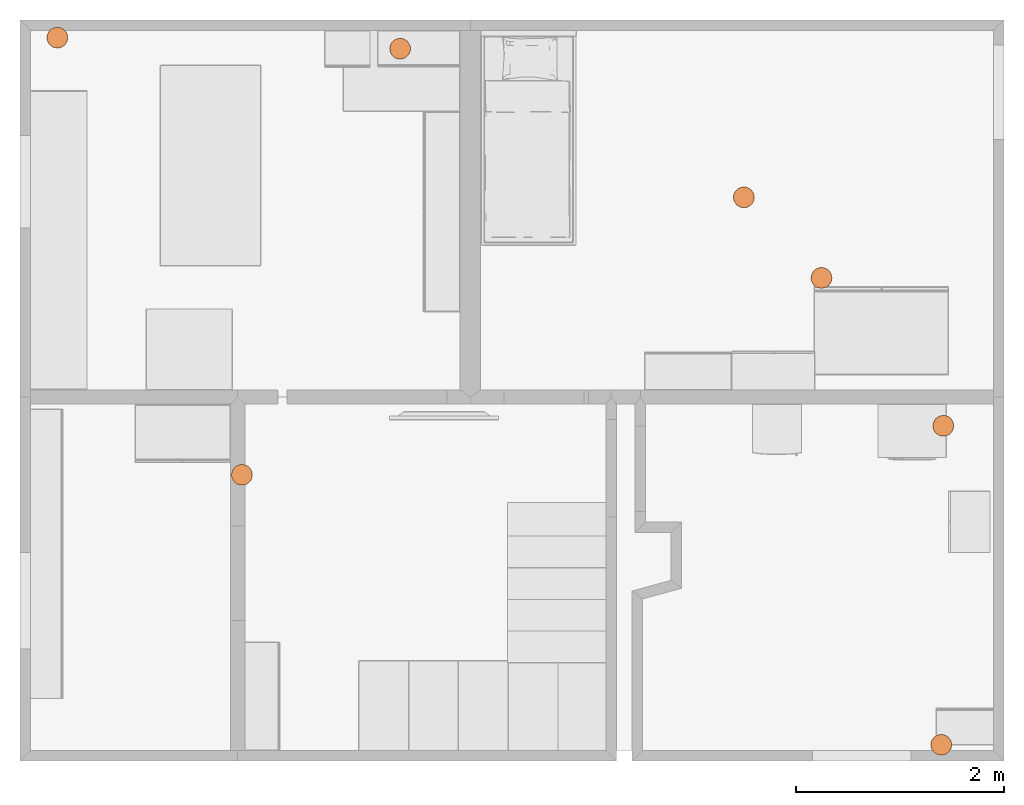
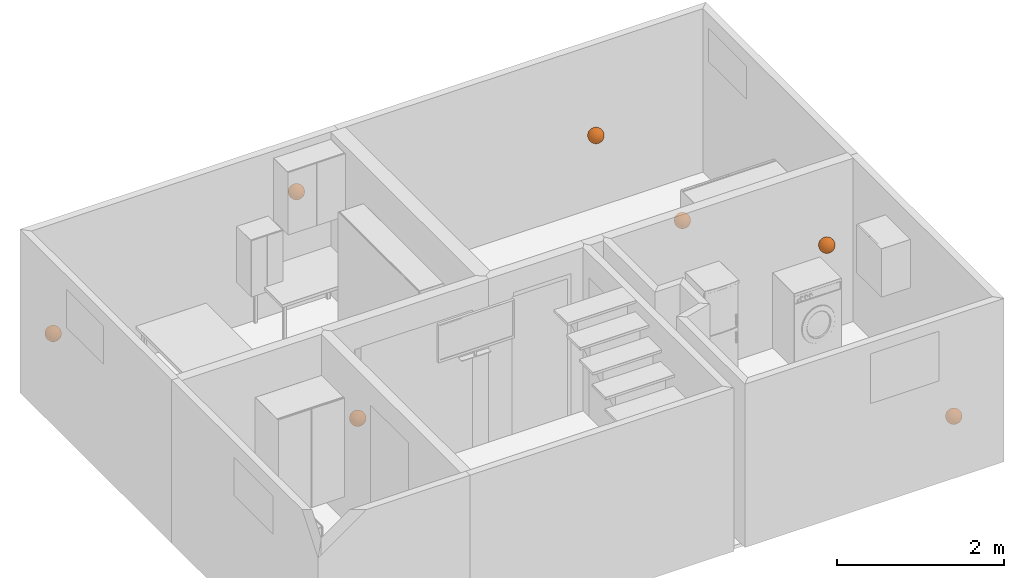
# One storey, part 9 of 9: 7 proxies.
"""IFC2X3 building model written with IfcOpenShell, lengths in metres."""

from ifc_helpers import new_model, entity, si_unit, frame, origin_with_axes, place, context, subcontext, project, spatial, element, save


model = new_model("IFC2X3")

# Units and contexts
model_context = context("Model", 3, precision=1e-05, world=origin_with_axes())
body_context = subcontext(model_context, "Body", "Model", "MODEL_VIEW")
ifc_project = project(units=[si_unit("AREAUNIT", "SQUARE_METRE"), si_unit("LENGTHUNIT", "METRE")], contexts=[model_context])

# Site, building, storey
site_placement = place(None, origin_with_axes())
site = spatial("IfcSite", under=ifc_project, at=site_placement, Name="Site", CompositionType="ELEMENT")
building_placement = place(site_placement, origin_with_axes())
building = spatial("IfcBuilding", under=site, at=building_placement, Name="Building", CompositionType="ELEMENT")
storey_placement = place(building_placement, frame((0.0, 0.0, 0.0500004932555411), z_axis=(0.0, 0.0, 1.0), x_axis=(1.0, 0.0, 0.0)))
storey = spatial("IfcBuildingStorey", under=building, at=storey_placement, Name="Story 0", CompositionType="ELEMENT", Elevation=0.0499999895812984)

# Proxy
proxy_placement = place(storey_placement, frame((-5.63166999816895, -1.69898951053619, 1.53550976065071), z_axis=(0.0, 0.0, 1.0), x_axis=(1.0, 0.0, 0.0)))
element("IfcBuildingElementProxy", 1, at=proxy_placement, inside=storey, Name="PointOfInterest", ObjectType="PointOfInterest", context=body_context, shape_type="CSG", body=[
    entity("IfcSphere", entity("IfcAxis2Placement3D", entity("IfcCartesianPoint", [0.0, 0.0, 0.0]), entity("IfcDirection", [0.0, 0.0, 1.0]), entity("IfcDirection", [1.0, 0.0, 0.0])), 0.1),
])

# Space
space_1_placement = place(storey_placement, frame((-7.67097576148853, 2.58340758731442, 0.0), z_axis=(0.0, 0.0, 1.0), x_axis=(1.0, 0.0, 0.0)))
space_1 = spatial("IfcSpace", under=storey, at=space_1_placement, Name="001", CompositionType="ELEMENT", InteriorOrExteriorSpace="INTERNAL")

# Proxies
for number, where, z_axis, x_axis in (
    (2, (0.26136739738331, -0.0695151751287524, 0.840989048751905), (0.0, 0.0, 1.0), (1.0, 0.0, 0.0)),
    (3, (3.5632668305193, -0.176767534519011, 1.8224800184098), (0.0, 0.0, 1.0), (1.0, 0.0, 0.0)),
):
    element("IfcBuildingElementProxy", number, at=place(space_1_placement, frame(where, z_axis=z_axis, x_axis=x_axis)), inside=space_1, Name="PointOfInterest", ObjectType="PointOfInterest", context=body_context, shape_type="CSG", body=[
        entity("IfcSphere", entity("IfcAxis2Placement3D", entity("IfcCartesianPoint", [0.0, 0.0, 0.0]), entity("IfcDirection", [0.0, 0.0, 1.0]), entity("IfcDirection", [1.0, 0.0, 0.0])), 0.1),
    ])

# Space
space_2_placement = place(storey_placement, frame((-3.32890420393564, 2.58106408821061, 0.0), z_axis=(0.0, 0.0, 1.0), x_axis=(1.0, 0.0, 0.0)))
space_2 = spatial("IfcSpace", under=storey, at=space_2_placement, Name="002", CompositionType="ELEMENT", InteriorOrExteriorSpace="INTERNAL")

# Proxies
for number, where, z_axis, x_axis in (
    (4, (3.28094016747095, -2.3824761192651, 1.31924169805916), (0.0, 0.0, 1.0), (1.0, 0.0, 0.0)),
    (5, (2.53343050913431, -1.60651932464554, 2.35334604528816), (0.0, 0.0, 1.0), (1.0, 0.0, 0.0)),
):
    element("IfcBuildingElementProxy", number, at=place(space_2_placement, frame(where, z_axis=z_axis, x_axis=x_axis)), inside=space_2, Name="PointOfInterest", ObjectType="PointOfInterest", context=body_context, shape_type="CSG", body=[
        entity("IfcSphere", entity("IfcAxis2Placement3D", entity("IfcCartesianPoint", [0.0, 0.0, 0.0]), entity("IfcDirection", [0.0, 0.0, 1.0]), entity("IfcDirection", [1.0, 0.0, 0.0])), 0.1),
    ])

# Space
space_3_placement = place(storey_placement, frame((-1.76942628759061, -4.35393704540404, 0.0), z_axis=(0.0, 0.0, 1.0), x_axis=(1.0, 0.0, 0.0)))
space_3 = spatial("IfcSpace", under=storey, at=space_3_placement, Name="003", CompositionType="ELEMENT", InteriorOrExteriorSpace="INTERNAL")

# Proxies
for number, where, z_axis, x_axis in (
    (6, (2.87547725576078, 0.054271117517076, 0.783187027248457), (0.0, 0.0, 1.0), (1.0, 0.0, 0.0)),
    (7, (2.89523488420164, 3.12774266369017, 1.4132969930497), (0.0, 0.0, 1.0), (1.0, 0.0, 0.0)),
):
    element("IfcBuildingElementProxy", number, at=place(space_3_placement, frame(where, z_axis=z_axis, x_axis=x_axis)), inside=space_3, Name="PointOfInterest", ObjectType="PointOfInterest", context=body_context, shape_type="CSG", body=[
        entity("IfcSphere", entity("IfcAxis2Placement3D", entity("IfcCartesianPoint", [0.0, 0.0, 0.0]), entity("IfcDirection", [0.0, 0.0, 1.0]), entity("IfcDirection", [1.0, 0.0, 0.0])), 0.1),
    ])

save(model, "model.ifc")
